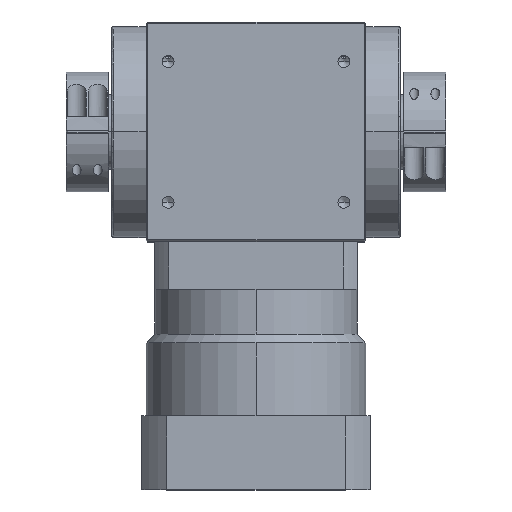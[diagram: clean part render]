
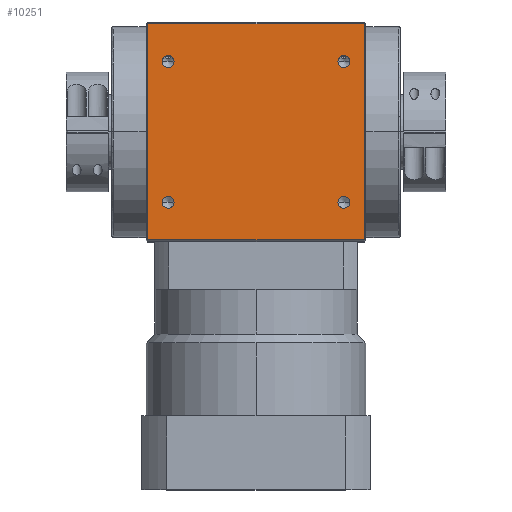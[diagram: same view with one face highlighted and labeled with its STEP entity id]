
A CAD part, top view. The second image highlights one B-rep face of the part: STEP entity #10251.
In plain terms, the highlighted planar face has unit normal (0, 0, 1).
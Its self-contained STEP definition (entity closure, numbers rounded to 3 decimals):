
#117 = AXIS2_PLACEMENT_3D ( 'NONE', #8488, #3316, #9320 ) ;
#188 = CIRCLE ( 'NONE', #8147, 3.4 ) ;
#243 = DIRECTION ( 'NONE',  ( 1., 0., 0. ) ) ;
#244 = CARTESIAN_POINT ( 'NONE',  ( -46.6, -40., 62.5 ) ) ;
#510 = VERTEX_POINT ( 'NONE', #1862 ) ;
#667 = DIRECTION ( 'NONE',  ( 0., 1., 0. ) ) ;
#675 = DIRECTION ( 'NONE',  ( 1., 0., 0. ) ) ;
#697 = DIRECTION ( 'NONE',  ( 0., 0., 1. ) ) ;
#709 = CARTESIAN_POINT ( 'NONE',  ( 50., -40., 62.5 ) ) ;
#738 = CARTESIAN_POINT ( 'NONE',  ( 61.5, -61.5, 62.5 ) ) ;
#930 = AXIS2_PLACEMENT_3D ( 'NONE', #2991, #9023, #3850 ) ;
#1092 = AXIS2_PLACEMENT_3D ( 'NONE', #8974, #3801, #9814 ) ;
#1103 = EDGE_CURVE ( 'NONE', #4027, #510, #2145, .T. ) ;
#1185 = ORIENTED_EDGE ( 'NONE', *, *, #8917, .T. ) ;
#1242 = CARTESIAN_POINT ( 'NONE',  ( 61.5, 61.5, 62.5 ) ) ;
#1356 = CIRCLE ( 'NONE', #2478, 3.4 ) ;
#1429 = EDGE_LOOP ( 'NONE', ( #4115, #6659 ) ) ;
#1533 = CIRCLE ( 'NONE', #117, 3.4 ) ;
#1862 = CARTESIAN_POINT ( 'NONE',  ( -61.5, -61.5, 62.5 ) ) ;
#1896 = FACE_BOUND ( 'NONE', #2019, .T. ) ;
#2019 = EDGE_LOOP ( 'NONE', ( #4154, #5892 ) ) ;
#2094 = LINE ( 'NONE', #7632, #6385 ) ;
#2145 = LINE ( 'NONE', #9286, #10377 ) ;
#2161 = EDGE_CURVE ( 'NONE', #5433, #9860, #188, .T. ) ;
#2344 = CARTESIAN_POINT ( 'NONE',  ( -53.4, -40., 62.5 ) ) ;
#2357 = VERTEX_POINT ( 'NONE', #2344 ) ;
#2478 = AXIS2_PLACEMENT_3D ( 'NONE', #4061, #10067, #4913 ) ;
#2617 = CARTESIAN_POINT ( 'NONE',  ( -61.5, 61.5, 62.5 ) ) ;
#2723 = VERTEX_POINT ( 'NONE', #244 ) ;
#2771 = ORIENTED_EDGE ( 'NONE', *, *, #1103, .T. ) ;
#2991 = CARTESIAN_POINT ( 'NONE',  ( 50., -40., 62.5 ) ) ;
#3153 = DIRECTION ( 'NONE',  ( 1., 0., 0. ) ) ;
#3162 = DIRECTION ( 'NONE',  ( 0., 0., 1. ) ) ;
#3167 = CARTESIAN_POINT ( 'NONE',  ( 50., 40., 62.5 ) ) ;
#3316 = DIRECTION ( 'NONE',  ( 0., 0., 1. ) ) ;
#3376 = EDGE_CURVE ( 'NONE', #9215, #6404, #5954, .T. ) ;
#3442 = DIRECTION ( 'NONE',  ( 0., 0., 1. ) ) ;
#3483 = CIRCLE ( 'NONE', #6398, 3.4 ) ;
#3584 = ORIENTED_EDGE ( 'NONE', *, *, #5914, .F. ) ;
#3746 = AXIS2_PLACEMENT_3D ( 'NONE', #10347, #10317, #243 ) ;
#3801 = DIRECTION ( 'NONE',  ( 0., 0., -1. ) ) ;
#3850 = DIRECTION ( 'NONE',  ( 1., 0., 0. ) ) ;
#3852 = VERTEX_POINT ( 'NONE', #4691 ) ;
#3925 = ORIENTED_EDGE ( 'NONE', *, *, #9948, .F. ) ;
#4027 = VERTEX_POINT ( 'NONE', #2617 ) ;
#4061 = CARTESIAN_POINT ( 'NONE',  ( -50., -40., 62.5 ) ) ;
#4115 = ORIENTED_EDGE ( 'NONE', *, *, #2161, .F. ) ;
#4154 = ORIENTED_EDGE ( 'NONE', *, *, #10638, .F. ) ;
#4165 = VERTEX_POINT ( 'NONE', #1242 ) ;
#4332 = CARTESIAN_POINT ( 'NONE',  ( 46.6, -40., 62.5 ) ) ;
#4392 = VERTEX_POINT ( 'NONE', #4332 ) ;
#4517 = CIRCLE ( 'NONE', #6368, 3.4 ) ;
#4691 = CARTESIAN_POINT ( 'NONE',  ( 53.4, -40., 62.5 ) ) ;
#4762 = CARTESIAN_POINT ( 'NONE',  ( 53.4, 40., 62.5 ) ) ;
#4784 = EDGE_LOOP ( 'NONE', ( #3584, #5505 ) ) ;
#4850 = DIRECTION ( 'NONE',  ( 1., 0., 0. ) ) ;
#4852 = DIRECTION ( 'NONE',  ( 0., 0., 1. ) ) ;
#4858 = CARTESIAN_POINT ( 'NONE',  ( 50., 40., 62.5 ) ) ;
#4913 = DIRECTION ( 'NONE',  ( 1., 0., 0. ) ) ;
#4931 = EDGE_LOOP ( 'NONE', ( #8181, #3925 ) ) ;
#5118 = CIRCLE ( 'NONE', #930, 3.4 ) ;
#5433 = VERTEX_POINT ( 'NONE', #4762 ) ;
#5493 = PLANE ( 'NONE',  #1092 ) ;
#5496 = EDGE_LOOP ( 'NONE', ( #7675, #1185, #2771, #5740 ) ) ;
#5505 = ORIENTED_EDGE ( 'NONE', *, *, #9692, .F. ) ;
#5740 = ORIENTED_EDGE ( 'NONE', *, *, #7541, .T. ) ;
#5892 = ORIENTED_EDGE ( 'NONE', *, *, #9347, .F. ) ;
#5914 = EDGE_CURVE ( 'NONE', #3852, #4392, #4517, .T. ) ;
#5954 = CIRCLE ( 'NONE', #3746, 3.4 ) ;
#6002 = LINE ( 'NONE', #9786, #6360 ) ;
#6202 = FACE_BOUND ( 'NONE', #1429, .T. ) ;
#6360 = VECTOR ( 'NONE', #8910, 1000. ) ;
#6368 = AXIS2_PLACEMENT_3D ( 'NONE', #709, #697, #675 ) ;
#6385 = VECTOR ( 'NONE', #7710, 1000. ) ;
#6398 = AXIS2_PLACEMENT_3D ( 'NONE', #8608, #3442, #9444 ) ;
#6404 = VERTEX_POINT ( 'NONE', #6992 ) ;
#6659 = ORIENTED_EDGE ( 'NONE', *, *, #7949, .F. ) ;
#6992 = CARTESIAN_POINT ( 'NONE',  ( -53.4, 40., 62.5 ) ) ;
#7097 = CARTESIAN_POINT ( 'NONE',  ( 61.5, -61.5, 62.5 ) ) ;
#7541 = EDGE_CURVE ( 'NONE', #510, #10185, #2094, .T. ) ;
#7632 = CARTESIAN_POINT ( 'NONE',  ( -61.5, -61.5, 62.5 ) ) ;
#7675 = ORIENTED_EDGE ( 'NONE', *, *, #8709, .T. ) ;
#7710 = DIRECTION ( 'NONE',  ( 1., 0., 0. ) ) ;
#7949 = EDGE_CURVE ( 'NONE', #9860, #5433, #8106, .T. ) ;
#8106 = CIRCLE ( 'NONE', #10500, 3.4 ) ;
#8147 = AXIS2_PLACEMENT_3D ( 'NONE', #3167, #3162, #3153 ) ;
#8181 = ORIENTED_EDGE ( 'NONE', *, *, #3376, .F. ) ;
#8191 = VECTOR ( 'NONE', #667, 1000. ) ;
#8488 = CARTESIAN_POINT ( 'NONE',  ( -50., 40., 62.5 ) ) ;
#8561 = FACE_BOUND ( 'NONE', #4931, .T. ) ;
#8608 = CARTESIAN_POINT ( 'NONE',  ( -50., -40., 62.5 ) ) ;
#8709 = EDGE_CURVE ( 'NONE', #10185, #4165, #8874, .T. ) ;
#8813 = FACE_BOUND ( 'NONE', #4784, .T. ) ;
#8874 = LINE ( 'NONE', #738, #8191 ) ;
#8898 = CARTESIAN_POINT ( 'NONE',  ( -46.6, 40., 62.5 ) ) ;
#8910 = DIRECTION ( 'NONE',  ( -1., 0., 0. ) ) ;
#8917 = EDGE_CURVE ( 'NONE', #4165, #4027, #6002, .T. ) ;
#8974 = CARTESIAN_POINT ( 'NONE',  ( 61.5, -61.5, 62.5 ) ) ;
#9023 = DIRECTION ( 'NONE',  ( 0., 0., 1. ) ) ;
#9175 = CARTESIAN_POINT ( 'NONE',  ( 46.6, 40., 62.5 ) ) ;
#9215 = VERTEX_POINT ( 'NONE', #8898 ) ;
#9286 = CARTESIAN_POINT ( 'NONE',  ( -61.5, 61.5, 62.5 ) ) ;
#9320 = DIRECTION ( 'NONE',  ( 1., 0., 0. ) ) ;
#9347 = EDGE_CURVE ( 'NONE', #2357, #2723, #1356, .T. ) ;
#9433 = DIRECTION ( 'NONE',  ( 0., -1., 0. ) ) ;
#9444 = DIRECTION ( 'NONE',  ( 1., 0., 0. ) ) ;
#9692 = EDGE_CURVE ( 'NONE', #4392, #3852, #5118, .T. ) ;
#9786 = CARTESIAN_POINT ( 'NONE',  ( 61.5, 61.5, 62.5 ) ) ;
#9814 = DIRECTION ( 'NONE',  ( -1., 0., 0. ) ) ;
#9860 = VERTEX_POINT ( 'NONE', #9175 ) ;
#9948 = EDGE_CURVE ( 'NONE', #6404, #9215, #1533, .T. ) ;
#10067 = DIRECTION ( 'NONE',  ( 0., 0., 1. ) ) ;
#10185 = VERTEX_POINT ( 'NONE', #7097 ) ;
#10251 = ADVANCED_FACE ( 'NONE', ( #10501, #8561, #6202, #1896, #8813 ), #5493, .F. ) ;
#10317 = DIRECTION ( 'NONE',  ( 0., 0., 1. ) ) ;
#10347 = CARTESIAN_POINT ( 'NONE',  ( -50., 40., 62.5 ) ) ;
#10377 = VECTOR ( 'NONE', #9433, 1000. ) ;
#10500 = AXIS2_PLACEMENT_3D ( 'NONE', #4858, #4852, #4850 ) ;
#10501 = FACE_OUTER_BOUND ( 'NONE', #5496, .T. ) ;
#10638 = EDGE_CURVE ( 'NONE', #2723, #2357, #3483, .T. ) ;
